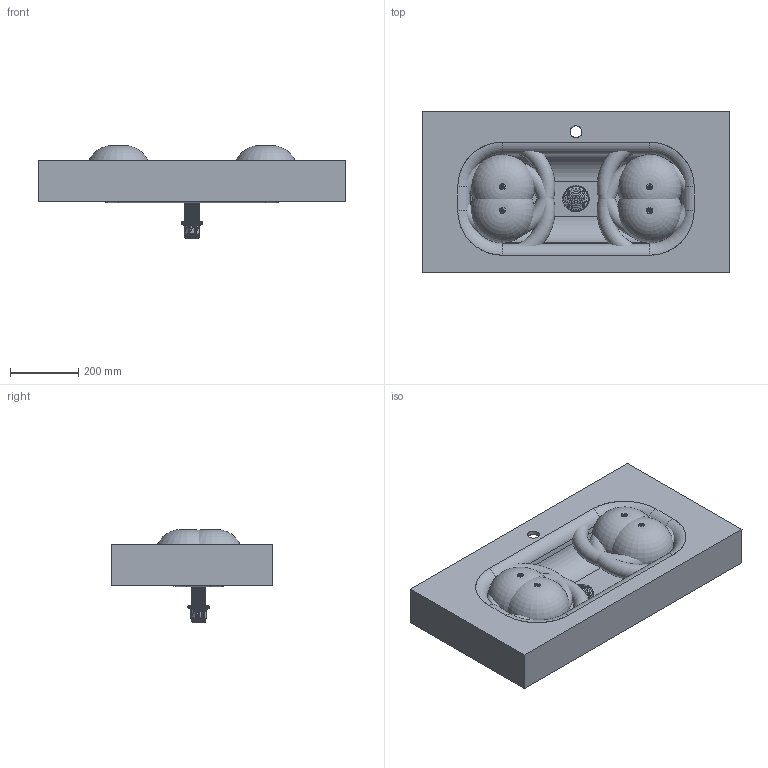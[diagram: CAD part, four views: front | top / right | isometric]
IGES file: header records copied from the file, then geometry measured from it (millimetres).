
Start section: Data from Parasolid IGES Translator 19.0.9, Copyright(c) 2006 Siemens PL M Software. All Rights Reserved.
Global section: file name: noorth-top-H 12 D 47,3 W 90_4797.igs; native system: By Siemens PLM Incorporated; preprocessor: XPlus GENERIC/IGES 19.0.9; author: Noname; organization: Noname; date: 20200603.112652; units: metre
Bounding box: 900 x 472 x 271.42 mm (x, y, z)
Volume: 21911996.9 mm3; surface area: 2547961.1 mm2
Topology: 2 solids, 2 shells, 11699 faces, 35056 edges, 34971 vertices
Faces by surface type: extrusion 11618, plane 28, cylinder 26, torus 18, cone 9
Full cylindrical faces by diameter (mm): 34.9 x1, 46 x1
